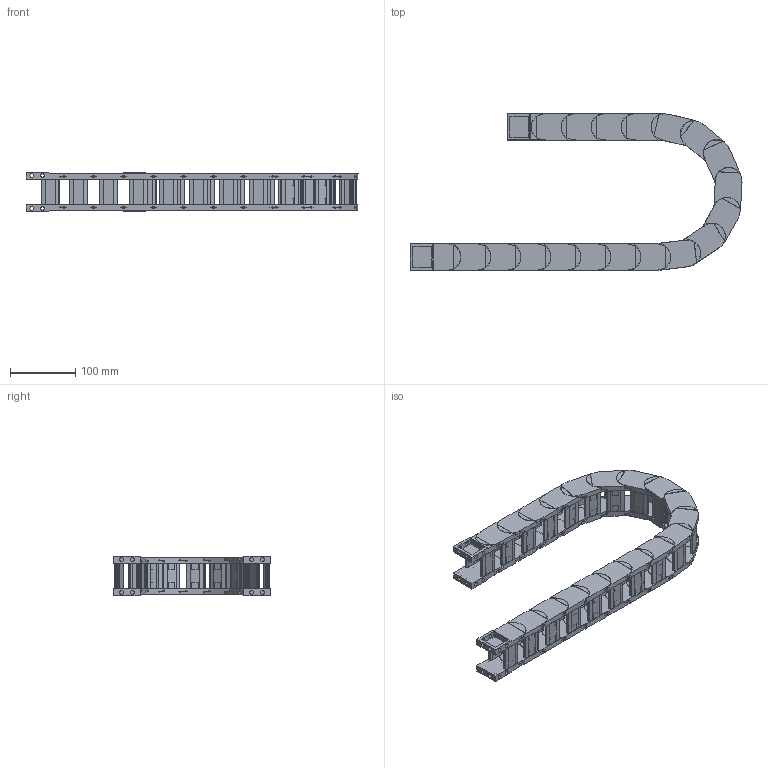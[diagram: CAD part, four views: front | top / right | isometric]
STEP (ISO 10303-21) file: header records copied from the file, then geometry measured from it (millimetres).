
FILE_DESCRIPTION((''),'2;1');
FILE_NAME('HD25-R100-ZPT_ASM','2022-09-04T16:33:20',('admin'),(''),'CREO PARAMETRIC BY PTC INC, 2021164','CREO PARAMETRIC BY PTC INC, 2021164','');
FILE_SCHEMA(('CONFIG_CONTROL_DESIGN','GEOMETRIC_VALIDATION_PROPERTIES_MIM'));
Length unit declared in the file: millimetre
Products named in the file (6): HD30; 25XL-QSYP-103; HD25_ASM; H25-T1; H25-T2; HD25-R100-ZPT_ASM
Assembly tree (24 placements, depth 3):
  HD25-R100-ZPT_ASM
    HD25_ASM  x18
      HD30
      25XL-QSYP-103
    H25-T1
    H25-T2
    25XL-QSYP-103  x2
Bounding box: 509.09 x 240.42 x 59.9 mm (x, y, z)
Volume: 834359.6 mm3; surface area: 459306.9 mm2
Topology: 80 solids, 116 shells, 2026 faces, 5131 edges, 3421 vertices
Faces by surface type: plane 1514, cylinder 440, torus 72
Entity records: 10757 total; most frequent: CARTESIAN_POINT 1526, DIRECTION 1472, ORIENTED_EDGE 1406, EDGE_CURVE 703, VECTOR 522, LINE 522, AXIS2_PLACEMENT_3D 475, VERTEX_POINT 469
